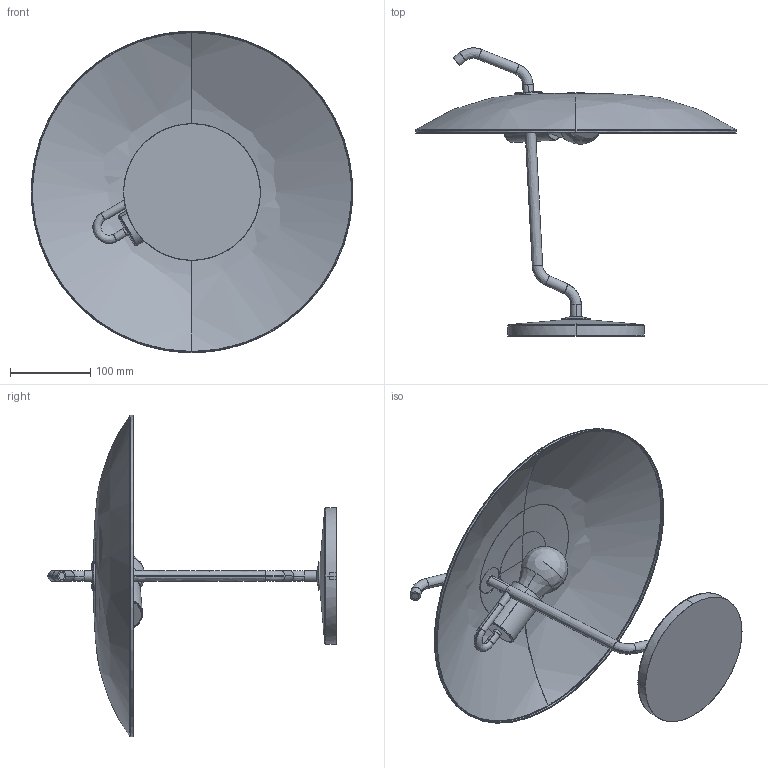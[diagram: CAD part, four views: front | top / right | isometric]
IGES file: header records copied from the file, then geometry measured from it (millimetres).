
Global section: file name: /Users/nicholas/Desktop/Model 537/Model 537.igs; preprocessor: Trout Lake IGES 012 May 14 2018; date: 190524.092356; units: millimetre
Bounding box: 400 x 358.63 x 400 mm (x, y, z)
Surface area: 411294.2 mm2 (no closed solid volume)
Topology: 0 solids, 0 shells, 162 faces, 988 edges, 972 vertices
Faces by surface type: bspline 162
